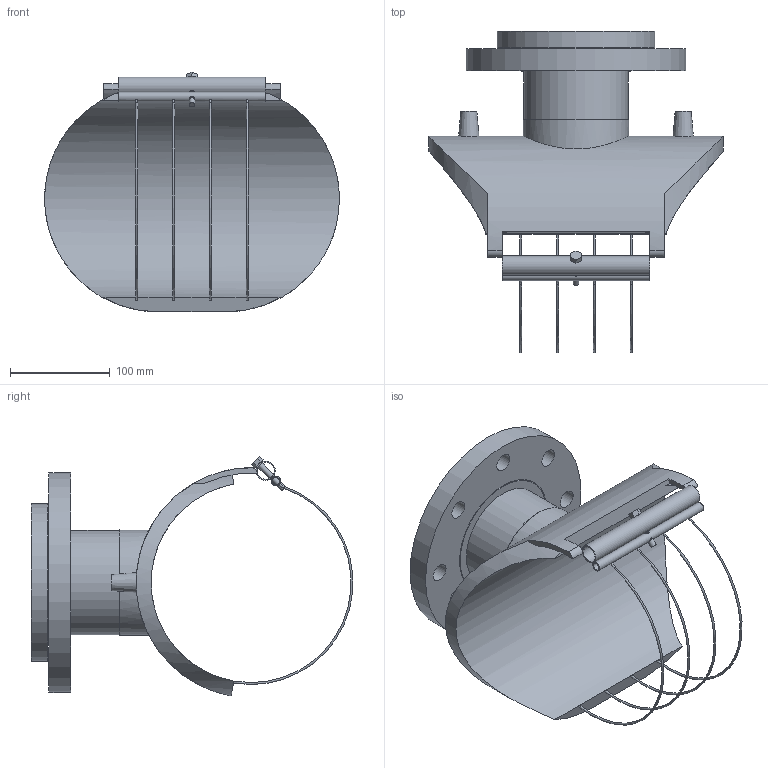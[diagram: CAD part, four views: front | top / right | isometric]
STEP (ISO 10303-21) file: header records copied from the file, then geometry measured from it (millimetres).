
FILE_DESCRIPTION(/* description */ ('Plasson Flanged Branch Saddle 200x100'),/* implementation_level */ '2;1');
FILE_NAME(/* name */ 'C:\Dropbox\99-16-3568-Processing\ElectroFusion Fittings\4959X4\stp\4959X4200100T.stp',/* time_stamp */ '2022-04-28T11:37:32+03:00',/* author */ ('KIM'),/* organization */ (''),/* preprocessor_version */ 'ST-DEVELOPER v17.2',/* originating_system */ 'Autodesk Inventor 2019',/* authorisation */ '');
FILE_SCHEMA (('AUTOMOTIVE_DESIGN { 1 0 10303 214 3 1 1 }'));
Length unit declared in the file: millimetre
Products named in the file (1): 4959X4200100T
Bounding box: 295 x 321.69 x 239.83 mm (x, y, z)
Volume: 2192707.6 mm3; surface area: 378946.6 mm2
Topology: 2 solids, 2 shells, 79 faces, 243 edges, 168 vertices
Faces by surface type: cylinder 40, plane 29, torus 8, cone 2
Full cylindrical faces by diameter (mm): 6 x3, 7.6 x1, 8 x1, 16 x1, 17.2 x1, 18 x8, 87 x1, 104.4 x1, 105.4 x1, 121.8 x1, 123.8 x1, 158 x1, 220 x1
Entity records: 3730 total; most frequent: CARTESIAN_POINT 1384, ORIENTED_EDGE 490, DIRECTION 481, EDGE_CURVE 245, AXIS2_PLACEMENT_3D 204, VERTEX_POINT 168, CIRCLE 120, EDGE_LOOP 117
